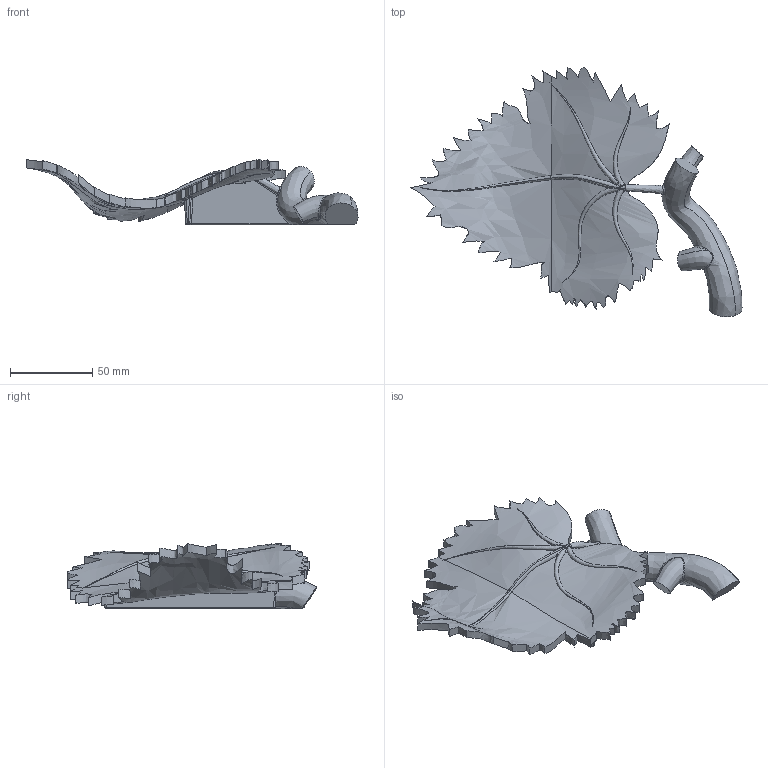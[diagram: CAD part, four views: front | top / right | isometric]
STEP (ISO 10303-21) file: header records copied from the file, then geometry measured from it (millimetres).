
FILE_DESCRIPTION(('CATIA V5 STEP Exchange'),'2;1');
FILE_NAME('G:\GESTION\Devis 2011\Lycée\Fonderie\vigne 6.stp','2011-03-25T15:04:23+00:00',('none'),('none'),'CATIA Version 5 Release 19 GA (IN-10)','CATIA V5 STEP AP203','none');
FILE_SCHEMA(('CONFIG_CONTROL_DESIGN'));
Products named in the file (1): Part8
Bounding box: 201.32 x 151.53 x 39.94 mm (x, y, z)
Volume: 106687.5 mm3; surface area: 46790.4 mm2
Topology: 1 solids, 1 shells, 202 faces, 560 edges, 334 vertices
Faces by surface type: bspline 78, extrusion 74, plane 18, sphere 16, cylinder 16
Entity records: 44371 total; most frequent: CARTESIAN_POINT 40420, ORIENTED_EDGE 1066, EDGE_CURVE 533, B_SPLINE_CURVE_WITH_KNOTS 468, VERTEX_POINT 334, DIRECTION 303, EDGE_LOOP 203, ADVANCED_FACE 202
